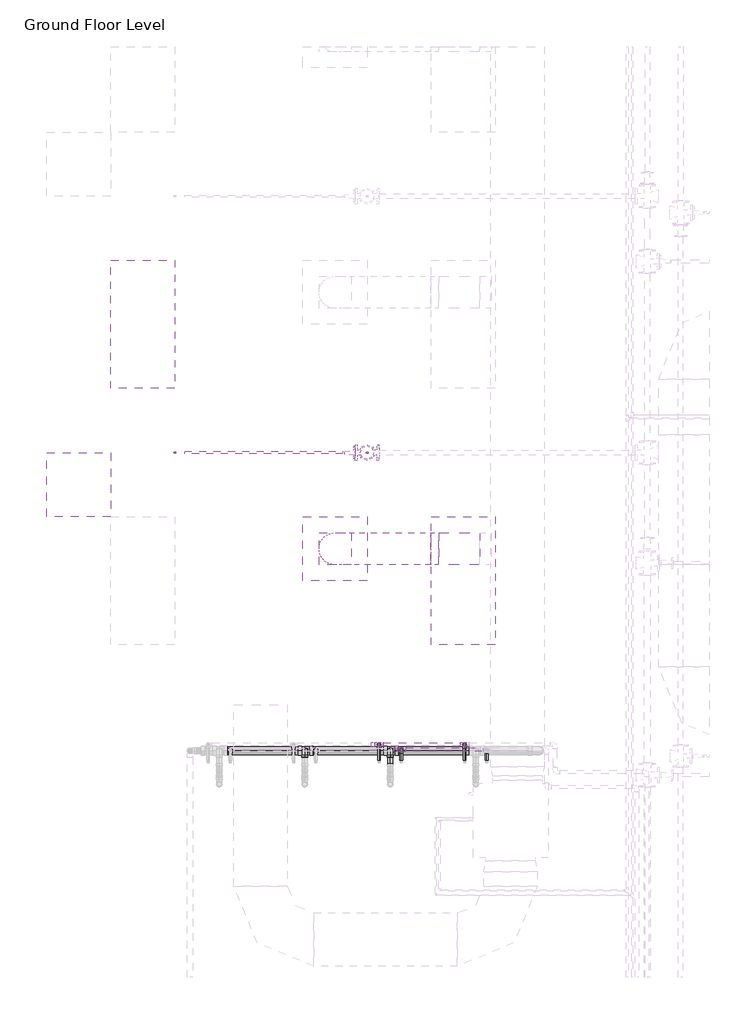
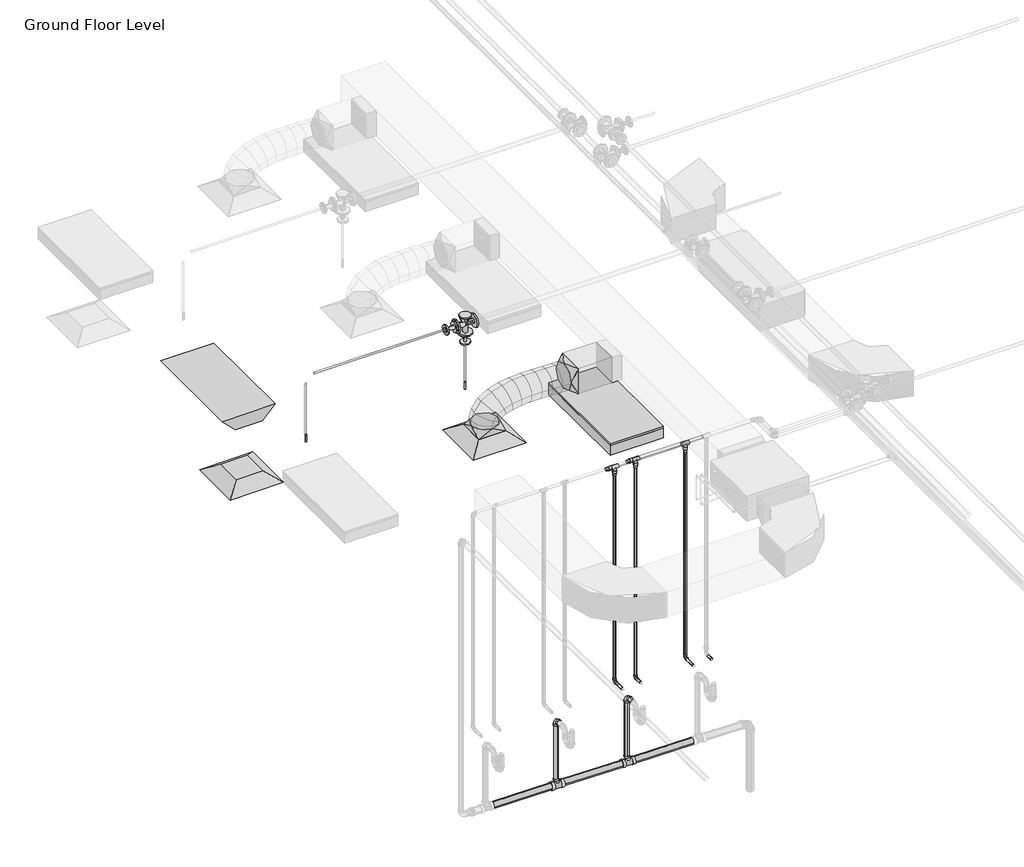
# One storey, part 24 of 74: 18 pipe fittings, 18 pipe segments, 2 air terminals, 2 duct fittings, 2 duct segments, 2 fire suppression terminals, 2 light fixtures.
"""IFC4 building model written with IfcOpenShell, lengths in millimetres."""

from ifc_helpers import new_model, si_unit, point, frame, frame_2d, origin, place, context, project, spatial, polyline, circle_curve, ellipse_curve, trimmed, segment, composite_curve, outline, extrude, transform, mapped, element, save
from ifc_brep_helpers import plane_surface, cylinder_surface, advanced_brep
from components import m_return_diffuser_600_x_600_face_300_x_300_connection_ff221211, m_rectangular_to_round_transition_angle_45_degree_641efff0, m_sprinkler_dry_pendent_hosted_15_mm_dry_pendent_9bda8e11, m_emergency_recessed_lighting_fixture_600x1200_277_5b10b25d, m_troffer_light_parabolic_rectangular1_0600x1200mm_4_lamp_86473d4a, m_bend_pvc_sch_40_dwv_standard_1e7bdcc1, m_bend_pvc_sch_40_dwv_standard_b3f66ba9, m_reducer_flanged_cs_class_150_standard_dc68ad9d, m_tee_reducing_sanitary_pvc_sch_40_dwv_standard_21d2848c, m_tee_round_base_flanged_cs_class_150_standard_ab36f383, standard_b266ab3f, standard_72b35c3b, standard_e954f56a, standard_e5aa6446

model = new_model("IFC4")

# Units and contexts
model_context = context("Model", 3, world=origin())
ifc_project = project(units=[si_unit("LENGTHUNIT", "METRE", prefix="MILLI")], contexts=[model_context])

# Site, building, storey
site = spatial("IfcSite", under=ifc_project)
building = spatial("IfcBuilding", under=site)
storey = spatial("IfcBuildingStorey", under=building, Name="Ground Floor Level", Elevation=900.0)

# Air terminals
placement = place(None, origin())
m_return_diffuser_600_x_600_face_300_x_300_connection_shape = m_return_diffuser_600_x_600_face_300_x_300_connection_ff221211(model_context)
element("IfcAirTerminal", 1, ObjectType="M_Return Diffuser : 600 x 600 Face 300 x 300 Connection", at=placement, inside=storey, context=model_context, shape_type="MappedRepresentation", body=[
    mapped(m_return_diffuser_600_x_600_face_300_x_300_connection_shape, transform((362.7672395, -21364.7846466, 3650.0), x_axis=(1.0, 0.0, 0.0), y_axis=(0.0, 1.0, 0.0), z_axis=(0.0, 0.0, 1.0))),
])
element("IfcAirTerminal", 2, ObjectType="M_Supply Diffuser : 600 x 600 Face 300 x 300 Connection", at=placement, inside=storey, context=model_context, shape_type="MappedRepresentation", body=[
    mapped(m_return_diffuser_600_x_600_face_300_x_300_connection_shape, transform((2762.7672395, -21964.7846466, 3650.0), x_axis=(1.0, 0.0, 0.0), y_axis=(0.0, 1.0, 0.0), z_axis=(0.0, 0.0, 1.0))),
])

# Duct fittings
m_rectangular_to_round_transition_angle_45_degree_shape = m_rectangular_to_round_transition_angle_45_degree_641efff0(model_context)
element("IfcDuctFitting", 3, ObjectType="M_Rectangular to Round Transition - Angle : 45 Degree", at=placement, inside=storey, context=model_context, shape_type="MappedRepresentation", body=[
    mapped(m_rectangular_to_round_transition_angle_45_degree_shape, transform((2762.7672395, -21964.7846466, 3751.6), x_axis=(0.0, 0.0, 1.0), y_axis=(-1.0, 0.0, 0.0), z_axis=(0.0, -1.0, 0.0))),
])
element("IfcDuctFitting", 4, ObjectType="M_Rectangular to Round Transition - Angle : 45 Degree", at=placement, inside=storey, context=model_context, shape_type="MappedRepresentation", body=[
    mapped(m_rectangular_to_round_transition_angle_45_degree_shape, transform((3732.9512129, -21964.7846466, 4057.1519579), x_axis=(-1.0, 0.0, 0.0), y_axis=(0.0, -1.0, 0.0), z_axis=(0.0, 0.0, 1.0))),
])

# Duct segments
element("IfcDuctSegment", 5, ObjectType="Flex - Round", at=placement, inside=storey, context=model_context, shape_type="AdvancedBrep", body=[
    advanced_brep(
    [(2912.7672395, -21964.7846466, 3826.6), (2762.7672395, -22114.7846466, 3826.6), (2612.7672395, -21964.7846466, 3826.6), (2762.7672395, -21814.7846466, 3826.6), (2912.7672395, -21964.7846466, 3832.8904143), (2762.7672395, -22114.7846466, 3856.8494149), (2612.7672395, -21964.7846466, 3880.8084155), (2762.7672395, -21814.7846466, 3856.8494149), (2914.0859082, -21964.7846466, 3836.9129923), (2779.5128239, -22114.7846466, 3907.9315565), (2644.9397396, -21964.7846466, 3978.9501208), (2779.5128239, -21814.7846466, 3907.9315565), (2928.1338147, -21964.7846466, 3855.2244817), (2826.2856906, -22114.7846466, 3968.9001322), (2724.4375665, -21964.7846466, 4082.5757828), (2826.2856906, -21814.7846466, 3968.9001322), (2960.075367, -21964.7846466, 3874.5779986), (2897.8900097, -22114.7846466, 4012.2854816), (2835.7046525, -21964.7846466, 4149.9929645), (2897.8900097, -21814.7846466, 4012.2854816), (3023.3471395, -21964.7846466, 3894.3985509), (2989.1299517, -22114.7846466, 4040.8673589), (2954.9127638, -21964.7846466, 4187.3361668), (2989.1299517, -21814.7846466, 4040.8673589), (3111.2174774, -21964.7846466, 3908.1662907), (3094.8096865, -22114.7846466, 4057.4255186), (3078.4018957, -21964.7846466, 4206.6847465), (3094.8096865, -21814.7846466, 4057.4255186), (3215.0370803, -21964.7846466, 3914.773779), (3209.7333846, -22114.7846466, 4064.7397152), (3204.4296888, -21964.7846466, 4214.7056514), (3209.7333846, -21814.7846466, 4064.7397152), (3327.4369923, -21964.7846466, 3915.576814), (3328.705216, -22114.7846466, 4065.589703), (3329.9734397, -21964.7846466, 4215.6025919), (3328.705216, -21814.7846466, 4065.589703), (3442.2113611, -21964.7846466, 3912.815715), (3446.529351, -22114.7846466, 4062.7552364), (3450.847341, -21964.7846466, 4212.6947579), (3446.529351, -21814.7846466, 4062.7552364), (3554.0566752, -21964.7846466, 3909.0643159), (3558.0099599, -22114.7846466, 4059.0160699), (3561.9632447, -21964.7846466, 4208.9678239), (3558.0099599, -21814.7846466, 4059.0160699), (3657.9512129, -21964.7846466, 3907.1519579), (3657.9512129, -21814.7846466, 4057.1519579), (3657.9512129, -21964.7846466, 4207.1519579), (3657.9512129, -22114.7846466, 4057.1519579), (3653.7148319, -21964.7846466, 3907.1519579), (3655.1538878, -22114.7846466, 4057.1519579), (3656.5929436, -21964.7846466, 4207.1519579), (3655.1538878, -21814.7846466, 4057.1519579)],
    [
        (0, 1, circle_curve(frame((2762.7672395, -21964.7846466, 3826.6), z_axis=(0.0, 0.0, -1.0), x_axis=(1.0, 0.0, 0.0)), 150.0)),
        (1, 2, circle_curve(frame((2762.7672395, -21964.7846466, 3826.6), z_axis=(0.0, 0.0, -1.0), x_axis=(1.0, 0.0, 0.0)), 150.0)),
        (2, 3, circle_curve(frame((2762.7672395, -21964.7846466, 3826.6), z_axis=(0.0, 0.0, -1.0), x_axis=(1.0, 0.0, 0.0)), 150.0)),
        (3, 0, circle_curve(frame((2762.7672395, -21964.7846466, 3826.6), z_axis=(0.0, 0.0, -1.0), x_axis=(1.0, 0.0, 0.0)), 150.0)),
        (0, 4),
        (4, 5, ellipse_curve(frame((2762.7672395, -21964.7846466, 3856.8494149), z_axis=(-0.1577273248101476, 0.0, -0.9874827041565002), x_axis=(0.9874827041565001, 0.0, -0.1577273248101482)), 151.9013947, 150.0)),
        (5, 1),
        (5, 6, ellipse_curve(frame((2762.7672395, -21964.7846466, 3856.8494149), z_axis=(-0.1577273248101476, 0.0, -0.9874827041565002), x_axis=(0.9874827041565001, 0.0, -0.1577273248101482)), 151.9013947, 150.0)),
        (6, 2),
        (6, 7, ellipse_curve(frame((2762.7672395, -21964.7846466, 3856.8494149), z_axis=(-0.1577273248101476, 0.0, -0.9874827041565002), x_axis=(0.9874827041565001, 0.0, -0.1577273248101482)), 151.9013947, 150.0)),
        (7, 3),
        (7, 4, ellipse_curve(frame((2762.7672395, -21964.7846466, 3856.8494149), z_axis=(-0.1577273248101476, 0.0, -0.9874827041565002), x_axis=(0.9874827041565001, 0.0, -0.1577273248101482)), 151.9013947, 150.0)),
        (4, 8),
        (8, 9, ellipse_curve(frame((2779.5128239, -21964.7846466, 3907.9315565), z_axis=(-0.46672716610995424, 0.0, -0.8844013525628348), x_axis=(0.8844013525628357, 0.0, -0.466727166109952)), 152.162911, 150.0)),
        (9, 5),
        (9, 10, ellipse_curve(frame((2779.5128239, -21964.7846466, 3907.9315565), z_axis=(-0.46672716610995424, 0.0, -0.8844013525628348), x_axis=(0.8844013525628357, 0.0, -0.466727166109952)), 152.162911, 150.0)),
        (10, 6),
        (10, 11, ellipse_curve(frame((2779.5128239, -21964.7846466, 3907.9315565), z_axis=(-0.46672716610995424, 0.0, -0.8844013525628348), x_axis=(0.8844013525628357, 0.0, -0.466727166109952)), 152.162911, 150.0)),
        (11, 7),
        (11, 8, ellipse_curve(frame((2779.5128239, -21964.7846466, 3907.9315565), z_axis=(-0.46672716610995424, 0.0, -0.8844013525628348), x_axis=(0.8844013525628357, 0.0, -0.466727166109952)), 152.162911, 150.0)),
        (8, 12),
        (12, 13, ellipse_curve(frame((2826.2856906, -21964.7846466, 3968.9001322), z_axis=(-0.744790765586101, 0.0, -0.6672980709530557), x_axis=(0.6672980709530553, 0.0, -0.7447907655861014)), 152.6276316, 150.0)),
        (13, 9),
        (13, 14, ellipse_curve(frame((2826.2856906, -21964.7846466, 3968.9001322), z_axis=(-0.744790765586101, 0.0, -0.6672980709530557), x_axis=(0.6672980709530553, 0.0, -0.7447907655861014)), 152.6276316, 150.0)),
        (14, 10),
        (14, 15, ellipse_curve(frame((2826.2856906, -21964.7846466, 3968.9001322), z_axis=(-0.744790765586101, 0.0, -0.6672980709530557), x_axis=(0.6672980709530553, 0.0, -0.7447907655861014)), 152.6276316, 150.0)),
        (15, 11),
        (15, 12, ellipse_curve(frame((2826.2856906, -21964.7846466, 3968.9001322), z_axis=(-0.744790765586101, 0.0, -0.6672980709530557), x_axis=(0.6672980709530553, 0.0, -0.7447907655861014)), 152.6276316, 150.0)),
        (12, 16),
        (16, 17, ellipse_curve(frame((2897.8900097, -21964.7846466, 4012.2854816), z_axis=(-0.9113833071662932, 0.0, -0.41155858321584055), x_axis=(0.41155858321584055, 0.0, -0.9113833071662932)), 151.0972187, 150.0)),
        (17, 13),
        (17, 18, ellipse_curve(frame((2897.8900097, -21964.7846466, 4012.2854816), z_axis=(-0.9113833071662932, 0.0, -0.41155858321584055), x_axis=(0.41155858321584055, 0.0, -0.9113833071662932)), 151.0972187, 150.0)),
        (18, 14),
        (18, 19, ellipse_curve(frame((2897.8900097, -21964.7846466, 4012.2854816), z_axis=(-0.9113833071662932, 0.0, -0.41155858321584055), x_axis=(0.41155858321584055, 0.0, -0.9113833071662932)), 151.0972187, 150.0)),
        (19, 15),
        (19, 16, ellipse_curve(frame((2897.8900097, -21964.7846466, 4012.2854816), z_axis=(-0.9113833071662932, 0.0, -0.41155858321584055), x_axis=(0.41155858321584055, 0.0, -0.9113833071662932)), 151.0972187, 150.0)),
        (16, 20),
        (20, 21, ellipse_curve(frame((2989.1299517, -21964.7846466, 4040.8673589), z_axis=(-0.9737806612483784, 0.0, -0.22748895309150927), x_axis=(0.22748895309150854, 0.0, -0.9737806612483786)), 150.4125249, 150.0)),
        (21, 17),
        (21, 22, ellipse_curve(frame((2989.1299517, -21964.7846466, 4040.8673589), z_axis=(-0.9737806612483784, 0.0, -0.22748895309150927), x_axis=(0.22748895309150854, 0.0, -0.9737806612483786)), 150.4125249, 150.0)),
        (22, 18),
        (22, 23, ellipse_curve(frame((2989.1299517, -21964.7846466, 4040.8673589), z_axis=(-0.9737806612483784, 0.0, -0.22748895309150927), x_axis=(0.22748895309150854, 0.0, -0.9737806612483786)), 150.4125249, 150.0)),
        (23, 19),
        (23, 20, ellipse_curve(frame((2989.1299517, -21964.7846466, 4040.8673589), z_axis=(-0.9737806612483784, 0.0, -0.22748895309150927), x_axis=(0.22748895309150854, 0.0, -0.9737806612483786)), 150.4125249, 150.0)),
        (20, 24),
        (24, 25, ellipse_curve(frame((3094.8096865, -21964.7846466, 4057.4255186), z_axis=(-0.9940121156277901, 0.0, -0.109269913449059), x_axis=(0.10926991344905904, 0.0, -0.9940121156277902)), 150.1583588, 150.0)),
        (25, 21),
        (25, 26, ellipse_curve(frame((3094.8096865, -21964.7846466, 4057.4255186), z_axis=(-0.9940121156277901, 0.0, -0.109269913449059), x_axis=(0.10926991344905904, 0.0, -0.9940121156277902)), 150.1583588, 150.0)),
        (26, 22),
        (26, 27, ellipse_curve(frame((3094.8096865, -21964.7846466, 4057.4255186), z_axis=(-0.9940121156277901, 0.0, -0.109269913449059), x_axis=(0.10926991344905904, 0.0, -0.9940121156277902)), 150.1583588, 150.0)),
        (27, 23),
        (27, 24, ellipse_curve(frame((3094.8096865, -21964.7846466, 4057.4255186), z_axis=(-0.9940121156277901, 0.0, -0.109269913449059), x_axis=(0.10926991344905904, 0.0, -0.9940121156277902)), 150.1583588, 150.0)),
        (24, 28),
        (28, 29, ellipse_curve(frame((3209.7333846, -21964.7846466, 4064.7397152), z_axis=(-0.9993752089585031, 0.0, -0.035343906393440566), x_axis=(0.035343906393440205, 0.0, -0.9993752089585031)), 150.0596922, 150.0)),
        (29, 25),
        (29, 30, ellipse_curve(frame((3209.7333846, -21964.7846466, 4064.7397152), z_axis=(-0.9993752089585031, 0.0, -0.035343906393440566), x_axis=(0.035343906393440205, 0.0, -0.9993752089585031)), 150.0596922, 150.0)),
        (30, 26),
        (30, 31, ellipse_curve(frame((3209.7333846, -21964.7846466, 4064.7397152), z_axis=(-0.9993752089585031, 0.0, -0.035343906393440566), x_axis=(0.035343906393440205, 0.0, -0.9993752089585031)), 150.0596922, 150.0)),
        (31, 27),
        (31, 28, ellipse_curve(frame((3209.7333846, -21964.7846466, 4064.7397152), z_axis=(-0.9993752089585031, 0.0, -0.035343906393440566), x_axis=(0.035343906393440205, 0.0, -0.9993752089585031)), 150.0596922, 150.0)),
        (28, 32),
        (32, 33, ellipse_curve(frame((3328.705216, -21964.7846466, 4065.589703), z_axis=(-0.9999642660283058, 0.0, 0.008453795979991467), x_axis=(-0.00845379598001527, 0.0, -0.9999642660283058)), 150.0182497, 150.0)),
        (33, 29),
        (33, 34, ellipse_curve(frame((3328.705216, -21964.7846466, 4065.589703), z_axis=(-0.9999642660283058, 0.0, 0.008453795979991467), x_axis=(-0.00845379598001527, 0.0, -0.9999642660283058)), 150.0182497, 150.0)),
        (34, 30),
        (34, 35, ellipse_curve(frame((3328.705216, -21964.7846466, 4065.589703), z_axis=(-0.9999642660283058, 0.0, 0.008453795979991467), x_axis=(-0.00845379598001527, 0.0, -0.9999642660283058)), 150.0182497, 150.0)),
        (35, 31),
        (35, 32, ellipse_curve(frame((3328.705216, -21964.7846466, 4065.589703), z_axis=(-0.9999642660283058, 0.0, 0.008453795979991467), x_axis=(-0.00845379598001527, 0.0, -0.9999642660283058)), 150.0182497, 150.0)),
        (32, 36),
        (36, 37, ellipse_curve(frame((3446.529351, -21964.7846466, 4062.7552364), z_axis=(-0.9995855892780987, 0.0, 0.028786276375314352), x_axis=(-0.028786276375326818, 0.0, -0.9995855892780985)), 150.0016838, 150.0)),
        (37, 33),
        (37, 38, ellipse_curve(frame((3446.529351, -21964.7846466, 4062.7552364), z_axis=(-0.9995855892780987, 0.0, 0.028786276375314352), x_axis=(-0.028786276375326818, 0.0, -0.9995855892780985)), 150.0016838, 150.0)),
        (38, 34),
        (38, 39, ellipse_curve(frame((3446.529351, -21964.7846466, 4062.7552364), z_axis=(-0.9995855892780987, 0.0, 0.028786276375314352), x_axis=(-0.028786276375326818, 0.0, -0.9995855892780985)), 150.0016838, 150.0)),
        (39, 35),
        (39, 36, ellipse_curve(frame((3446.529351, -21964.7846466, 4062.7552364), z_axis=(-0.9995855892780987, 0.0, 0.028786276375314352), x_axis=(-0.028786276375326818, 0.0, -0.9995855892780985)), 150.0016838, 150.0)),
        (36, 40),
        (40, 41, ellipse_curve(frame((3558.0099599, -21964.7846466, 4059.0160699), z_axis=(-0.999652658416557, 0.0, 0.026354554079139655), x_axis=(0.026354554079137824, 0.0, 0.9996526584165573)), 150.0038566, 150.0)),
        (41, 37),
        (41, 42, ellipse_curve(frame((3558.0099599, -21964.7846466, 4059.0160699), z_axis=(-0.999652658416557, 0.0, 0.026354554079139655), x_axis=(0.026354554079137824, 0.0, 0.9996526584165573)), 150.0038566, 150.0)),
        (42, 38),
        (42, 43, ellipse_curve(frame((3558.0099599, -21964.7846466, 4059.0160699), z_axis=(-0.999652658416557, 0.0, 0.026354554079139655), x_axis=(0.026354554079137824, 0.0, 0.9996526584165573)), 150.0038566, 150.0)),
        (43, 39),
        (43, 40, ellipse_curve(frame((3558.0099599, -21964.7846466, 4059.0160699), z_axis=(-0.999652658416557, 0.0, 0.026354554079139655), x_axis=(0.026354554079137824, 0.0, 0.9996526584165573)), 150.0038566, 150.0)),
        (44, 45, circle_curve(frame((3657.9512129, -21964.7846466, 4057.1519579), z_axis=(1.0, 0.0, 0.0), x_axis=(0.0, 0.0, -1.0)), 150.0)),
        (45, 46, circle_curve(frame((3657.9512129, -21964.7846466, 4057.1519579), z_axis=(1.0, 0.0, 0.0), x_axis=(0.0, 0.0, -1.0)), 150.0)),
        (46, 47, circle_curve(frame((3657.9512129, -21964.7846466, 4057.1519579), z_axis=(1.0, 0.0, 0.0), x_axis=(0.0, 0.0, -1.0)), 150.0)),
        (47, 44, circle_curve(frame((3657.9512129, -21964.7846466, 4057.1519579), z_axis=(1.0, 0.0, 0.0), x_axis=(0.0, 0.0, -1.0)), 150.0)),
        (40, 48),
        (48, 49, ellipse_curve(frame((3655.1538878, -21964.7846466, 4057.1519579), z_axis=(-0.9999539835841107, 0.0, 0.009593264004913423), x_axis=(0.009593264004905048, 0.0, 0.9999539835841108)), 150.0069028, 150.0)),
        (49, 41),
        (49, 50, ellipse_curve(frame((3655.1538878, -21964.7846466, 4057.1519579), z_axis=(-0.9999539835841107, 0.0, 0.009593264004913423), x_axis=(0.009593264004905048, 0.0, 0.9999539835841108)), 150.0069028, 150.0)),
        (50, 42),
        (50, 51, ellipse_curve(frame((3655.1538878, -21964.7846466, 4057.1519579), z_axis=(-0.9999539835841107, 0.0, 0.009593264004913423), x_axis=(0.009593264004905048, 0.0, 0.9999539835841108)), 150.0069028, 150.0)),
        (51, 43),
        (51, 48, ellipse_curve(frame((3655.1538878, -21964.7846466, 4057.1519579), z_axis=(-0.9999539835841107, 0.0, 0.009593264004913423), x_axis=(0.009593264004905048, 0.0, 0.9999539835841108)), 150.0069028, 150.0)),
        (48, 44),
        (47, 49),
        (46, 50),
        (45, 51),
    ],
    [
        plane_surface(frame((2762.7672395, -22114.7846466, 3826.6), z_axis=(0.0, 0.0, -1.0), x_axis=(1.0, 0.0, 0.0))),
        cylinder_surface(frame((2762.7672395, -21964.7846466, 3826.6), z_axis=(0.0, 0.0, -1.0), x_axis=(1.0, 0.0, 0.0)), 150.0),
        cylinder_surface(frame((2762.7672395, -21964.7846466, 3856.8494149), z_axis=(-0.3115060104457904, 0.0, -0.9502441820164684), x_axis=(0.9502441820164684, 0.0, -0.3115060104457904)), 150.0),
        cylinder_surface(frame((2779.5128239, -21964.7846466, 3907.9315565), z_axis=(-0.6086797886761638, 0.0, -0.7934159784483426), x_axis=(0.7934159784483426, 0.0, -0.6086797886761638)), 150.0),
        cylinder_surface(frame((2826.2856906, -21964.7846466, 3968.9001322), z_axis=(-0.8552571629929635, 0.0, -0.5182038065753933), x_axis=(0.5182038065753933, 0.0, -0.8552571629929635)), 150.0),
        cylinder_surface(frame((2897.8900097, -21964.7846466, 4012.2854816), z_axis=(-0.9542731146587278, 0.0, -0.29893615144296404), x_axis=(0.29893615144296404, 0.0, -0.9542731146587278)), 150.0),
        cylinder_surface(frame((2989.1299517, -21964.7846466, 4040.8673589), z_axis=(-0.9879467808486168, 0.0, -0.15479392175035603), x_axis=(0.15479392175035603, 0.0, -0.9879467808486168)), 150.0),
        cylinder_surface(frame((3094.8096865, -21964.7846466, 4057.4255186), z_axis=(-0.997980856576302, 0.0, -0.06351543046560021), x_axis=(0.06351543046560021, 0.0, -0.997980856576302)), 150.0),
        cylinder_surface(frame((3209.7333846, -21964.7846466, 4064.7397152), z_axis=(-0.9999744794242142, 0.0, -0.007144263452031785), x_axis=(0.007144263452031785, 0.0, -0.9999744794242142)), 150.0),
        cylinder_surface(frame((3328.705216, -21964.7846466, 4065.589703), z_axis=(-0.9997107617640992, 0.0, 0.024049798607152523), x_axis=(-0.024049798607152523, 0.0, -0.9997107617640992)), 150.0),
        cylinder_surface(frame((3446.529351, -21964.7846466, 4062.7552364), z_axis=(-0.9994379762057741, 0.0, 0.03352210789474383), x_axis=(-0.03352210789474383, 0.0, -0.9994379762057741)), 150.0),
        plane_surface(frame((3657.9512129, -21964.7846466, 3907.1519579), z_axis=(1.0, 0.0, 0.0), x_axis=(0.0, 1.0, 0.0))),
        cylinder_surface(frame((3558.0099599, -21964.7846466, 4059.0160699), z_axis=(-0.9998159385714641, 0.0, 0.01918564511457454), x_axis=(-0.01918564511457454, 0.0, -0.9998159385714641)), 150.0),
        cylinder_surface(frame((3655.1538878, -21964.7846466, 4057.1519579), z_axis=(-1.0, 0.0, 0.0), x_axis=(0.0, 0.0, -1.0)), 150.0),
    ],
    [
        (0, [[1, 2, 3, 4]]),
        (1, [[-1, 5, 6, 7]]),
        (1, [[-2, -7, 8, 9]]),
        (1, [[-3, -9, 10, 11]]),
        (1, [[-4, -11, 12, -5]]),
        (2, [[-6, 13, 14, 15]]),
        (2, [[-8, -15, 16, 17]]),
        (2, [[-10, -17, 18, 19]]),
        (2, [[-12, -19, 20, -13]]),
        (3, [[-14, 21, 22, 23]]),
        (3, [[-16, -23, 24, 25]]),
        (3, [[-18, -25, 26, 27]]),
        (3, [[-20, -27, 28, -21]]),
        (4, [[-22, 29, 30, 31]]),
        (4, [[-24, -31, 32, 33]]),
        (4, [[-26, -33, 34, 35]]),
        (4, [[-28, -35, 36, -29]]),
        (5, [[-30, 37, 38, 39]]),
        (5, [[-32, -39, 40, 41]]),
        (5, [[-34, -41, 42, 43]]),
        (5, [[-36, -43, 44, -37]]),
        (6, [[-38, 45, 46, 47]]),
        (6, [[-40, -47, 48, 49]]),
        (6, [[-42, -49, 50, 51]]),
        (6, [[-44, -51, 52, -45]]),
        (7, [[-46, 53, 54, 55]]),
        (7, [[-48, -55, 56, 57]]),
        (7, [[-50, -57, 58, 59]]),
        (7, [[-52, -59, 60, -53]]),
        (8, [[-54, 61, 62, 63]]),
        (8, [[-56, -63, 64, 65]]),
        (8, [[-58, -65, 66, 67]]),
        (8, [[-60, -67, 68, -61]]),
        (9, [[-62, 69, 70, 71]]),
        (9, [[-64, -71, 72, 73]]),
        (9, [[-66, -73, 74, 75]]),
        (9, [[-68, -75, 76, -69]]),
        (10, [[-70, 77, 78, 79]]),
        (10, [[-72, -79, 80, 81]]),
        (10, [[-74, -81, 82, 83]]),
        (10, [[-76, -83, 84, -77]]),
        (11, [[85, 86, 87, 88]]),
        (12, [[-78, 89, 90, 91]]),
        (12, [[-80, -91, 92, 93]]),
        (12, [[-82, -93, 94, 95]]),
        (12, [[-84, -95, 96, -89]]),
        (13, [[-90, 97, -88, 98]]),
        (13, [[-92, -98, -87, 99]]),
        (13, [[-94, -99, -86, 100]]),
        (13, [[-96, -100, -85, -97]]),
    ],
),
])
element("IfcDuctSegment", 6, ObjectType="Radius Elbows / Taps", at=placement, inside=storey, context=model_context, shape_type="SweptSolid", body=[
    extrude(outline(polyline([(4117.5581832, -21814.7846466), (4117.5581832, -22114.7846466), (3732.9512129, -22114.7846466), (3732.9512129, -21814.7846466), (4117.5581832, -21814.7846466)])), frame((0.0, 0.0, 3907.1519579), z_axis=(0.0, 0.0, 1.0), x_axis=(1.0, 0.0, 0.0)), (0.0, 0.0, 1.0), 300.0),
])

# Fire suppression terminals
m_sprinkler_dry_pendent_hosted_15_mm_dry_pendent_shape = m_sprinkler_dry_pendent_hosted_15_mm_dry_pendent_9bda8e11(model_context)
element("IfcFireSuppressionTerminal", 7, ObjectType="M_Sprinkler - Dry - Pendent - Hosted : 15 mm Dry Pendent", at=placement, inside=storey, context=model_context, shape_type="MappedRepresentation", body=[
    mapped(m_sprinkler_dry_pendent_hosted_15_mm_dry_pendent_shape, transform((1262.7672395, -21064.7846466, 3650.0), x_axis=(1.0, 0.0, 0.0), y_axis=(0.0, -1.0, 0.0), z_axis=(0.0, 0.0, -1.0))),
])
element("IfcFireSuppressionTerminal", 8, ObjectType="M_Sprinkler - Dry - Pendent - Hosted : 15 mm Dry Pendent", at=placement, inside=storey, context=model_context, shape_type="MappedRepresentation", body=[
    mapped(m_sprinkler_dry_pendent_hosted_15_mm_dry_pendent_shape, transform((3062.7672395, -21064.7846466, 3650.0), x_axis=(1.0, 0.0, 0.0), y_axis=(0.0, -1.0, 0.0), z_axis=(0.0, 0.0, -1.0))),
])

# Light fixtures
m_emergency_recessed_lighting_fixture_600x1200_277_shape = m_emergency_recessed_lighting_fixture_600x1200_277_5b10b25d(model_context)
element("IfcLightFixture", 9, ObjectType="M_Emergency Recessed Lighting Fixture : 600x1200 - 277", at=placement, inside=storey, context=model_context, shape_type="MappedRepresentation", body=[
    mapped(m_emergency_recessed_lighting_fixture_600x1200_277_shape, transform((662.7672395, -20464.7846466, 3650.0), x_axis=(0.0, 1.0, 0.0), y_axis=(-1.0, 0.0, 0.0), z_axis=(0.0, 0.0, 1.0))),
])
m_troffer_light_parabolic_rectangular1_0600x1200mm_4_lamp_shape = m_troffer_light_parabolic_rectangular1_0600x1200mm_4_lamp_86473d4a(model_context)
element("IfcLightFixture", 10, ObjectType="M_Troffer Light - Parabolic Rectangular1 : 0600x1200mm(4 Lamp) - 277V 2", at=placement, inside=storey, context=model_context, shape_type="MappedRepresentation", body=[
    mapped(m_troffer_light_parabolic_rectangular1_0600x1200mm_4_lamp_shape, transform((3903.3013074, -22246.081145, 3650.0), x_axis=(0.0, 1.0, 0.0), y_axis=(-1.0, 0.0, 0.0), z_axis=(0.0, 0.0, 1.0))),
])

# Pipe fittings
m_bend_pvc_sch_40_dwv_standard_shape = m_bend_pvc_sch_40_dwv_standard_1e7bdcc1(model_context)
element("IfcPipeFitting", 11, ObjectType="M_Bend - PVC - Sch 40 - DWV : Standard", at=placement, inside=storey, context=model_context, shape_type="MappedRepresentation", body=[
    mapped(m_bend_pvc_sch_40_dwv_standard_shape, transform((2478.7498, -23854.2948449, 1508.2594199), x_axis=(0.0, 0.9999500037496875, -0.00999950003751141), y_axis=(0.0, -0.00999950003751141, -0.9999500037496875), z_axis=(-1.0, 0.0, 0.0))),
])
m_bend_pvc_sch_40_dwv_standard_2_shape = m_bend_pvc_sch_40_dwv_standard_b3f66ba9(model_context)
element("IfcPipeFitting", 12, ObjectType="M_Bend - PVC - Sch 40 - DWV : Standard", at=placement, inside=storey, context=model_context, shape_type="MappedRepresentation", body=[
    mapped(m_bend_pvc_sch_40_dwv_standard_2_shape, transform((3278.7498, -23854.294392, 1508.3087469), x_axis=(0.0, 0.9999578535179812, -0.009181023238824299), y_axis=(0.0, -0.009181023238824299, -0.9999578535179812), z_axis=(-1.0, 0.0, 0.0))),
])
m_reducer_flanged_cs_class_150_standard_shape = m_reducer_flanged_cs_class_150_standard_dc68ad9d(model_context)
element("IfcPipeFitting", 13, ObjectType="M_Reducer - Flanged - CS - Class 150 : Standard", at=placement, inside=storey, context=model_context, shape_type="MappedRepresentation", body=[
    mapped(m_reducer_flanged_cs_class_150_standard_shape, transform((2950.5086457, -21064.7846466, 4347.5), x_axis=(-1.0, 0.0, 0.0), y_axis=(0.0, 0.0, 1.0), z_axis=(0.0, 1.0, 0.0))),
])
element("IfcPipeFitting", 14, ObjectType="M_Reducer - Flanged - CS - Class 150 : Standard", at=placement, inside=storey, context=model_context, shape_type="MappedRepresentation", body=[
    mapped(m_reducer_flanged_cs_class_150_standard_shape, transform((3062.7672395, -21064.7846466, 4235.2414062), x_axis=(0.0, 0.0, -1.0), y_axis=(-1.0, 0.0, 0.0), z_axis=(0.0, 1.0, 0.0))),
])
m_tee_reducing_sanitary_pvc_sch_40_dwv_standard_shape = m_tee_reducing_sanitary_pvc_sch_40_dwv_standard_21d2848c(model_context)
element("IfcPipeFitting", 15, ObjectType="M_Tee Reducing Sanitary - PVC - Sch 40 - DWV : Standard", at=placement, inside=storey, context=model_context, shape_type="MappedRepresentation", body=[
    mapped(m_tee_reducing_sanitary_pvc_sch_40_dwv_standard_shape, transform((2478.7498, -23854.2948449, 729.0632162), x_axis=(-0.9999500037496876, 0.0, 0.009999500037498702), y_axis=(-0.009999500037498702, 0.0, -0.9999500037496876), z_axis=(0.0, -1.0, 0.0))),
])
element("IfcPipeFitting", 16, ObjectType="M_Tee Reducing Sanitary - PVC - Sch 40 - DWV : Standard", at=placement, inside=storey, context=model_context, shape_type="MappedRepresentation", body=[
    mapped(m_tee_reducing_sanitary_pvc_sch_40_dwv_standard_shape, transform((3278.7498, -23854.294392, 721.0632162), x_axis=(-0.9999500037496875, 0.0, 0.009999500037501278), y_axis=(-0.009999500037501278, 0.0, -0.9999500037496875), z_axis=(0.0, -1.0, 0.0))),
])
m_tee_round_base_flanged_cs_class_150_standard_shape = m_tee_round_base_flanged_cs_class_150_standard_ab36f383(model_context)
element("IfcPipeFitting", 17, ObjectType="M_Tee Round Base - Flanged - CS - Class 150 : Standard", at=placement, inside=storey, context=model_context, shape_type="MappedRepresentation", body=[
    mapped(m_tee_round_base_flanged_cs_class_150_standard_shape, transform((3062.7672395, -21064.7846466, 4347.5), x_axis=(-1.0, 0.0, 0.0), y_axis=(0.0, 0.0, 1.0), z_axis=(0.0, 1.0, 0.0))),
])
standard_shape = standard_b266ab3f(model_context)
element("IfcPipeFitting", 18, ObjectType="M_Elbow - CPVC - Sch 40 : Standard", at=placement, inside=storey, context=model_context, shape_type="MappedRepresentation", body=[
    mapped(standard_shape, transform((3383.0647206, -23844.7846466, 1690.0), x_axis=(0.0, 0.0, -1.0), y_axis=(0.0, -1.0, 0.0), z_axis=(-1.0, 0.0, 0.0))),
])
element("IfcPipeFitting", 19, ObjectType="M_Elbow - CPVC - Sch 40 : Standard", at=placement, inside=storey, context=model_context, shape_type="MappedRepresentation", body=[
    mapped(standard_shape, transform((3174.4348794, -23794.921633, 1690.0), x_axis=(0.0, 1.0, 0.0), y_axis=(0.0, 0.0, 1.0), z_axis=(1.0, 0.0, 0.0))),
])
element("IfcPipeFitting", 20, ObjectType="M_Elbow - CPVC - Sch 40 : Standard", at=placement, inside=storey, context=model_context, shape_type="MappedRepresentation", body=[
    mapped(standard_shape, transform((3974.4348794, -23794.921633, 1690.0), x_axis=(0.0, 1.0, 0.0), y_axis=(0.0, 0.0, 1.0), z_axis=(1.0, 0.0, 0.0))),
])
standard_2_shape = standard_72b35c3b(model_context)
element("IfcPipeFitting", 21, ObjectType="M_Tee - CPVC - Sch 40 : Standard", at=placement, inside=storey, context=model_context, shape_type="MappedRepresentation", body=[
    mapped(standard_2_shape, transform((3383.0647206, -23844.7846466, 4300.0), x_axis=(1.0, 0.0, 0.0), y_axis=(0.0, 0.0, 1.0), z_axis=(0.0, -1.0, 0.0))),
])
element("IfcPipeFitting", 22, ObjectType="M_Tee - CPVC - Sch 40 : Standard", at=placement, inside=storey, context=model_context, shape_type="MappedRepresentation", body=[
    mapped(standard_2_shape, transform((3174.4348794, -23794.921633, 4250.0), x_axis=(-1.0, 0.0, 0.0), y_axis=(0.0, 0.0, 1.0), z_axis=(0.0, 1.0, 0.0))),
])
element("IfcPipeFitting", 23, ObjectType="M_Tee - CPVC - Sch 40 : Standard", at=placement, inside=storey, context=model_context, shape_type="MappedRepresentation", body=[
    mapped(standard_2_shape, transform((3974.4348794, -23794.921633, 4250.0), x_axis=(-1.0, 0.0, 0.0), y_axis=(0.0, 0.0, 1.0), z_axis=(0.0, 1.0, 0.0))),
])
standard_3_shape = standard_e954f56a(model_context)
element("IfcPipeFitting", 24, ObjectType="M_Coupling Reducing - CPVC - Sch 40 : Standard", at=placement, inside=storey, context=model_context, shape_type="MappedRepresentation", body=[
    mapped(standard_3_shape, transform((3343.3645206, -23844.7846466, 4300.0), x_axis=(-1.0, 0.0, 0.0), y_axis=(0.0, -1.0, 0.0), z_axis=(0.0, 0.0, 1.0))),
])
element("IfcPipeFitting", 25, ObjectType="M_Coupling Reducing - CPVC - Sch 40 : Standard", at=placement, inside=storey, context=model_context, shape_type="MappedRepresentation", body=[
    mapped(standard_3_shape, transform((3383.0647206, -23844.7846466, 4260.2998), x_axis=(0.0, 0.0, -1.0), y_axis=(1.0, 0.0, 0.0), z_axis=(0.0, -1.0, 0.0))),
])
element("IfcPipeFitting", 26, ObjectType="M_Coupling Reducing - CPVC - Sch 40 : Standard", at=placement, inside=storey, context=model_context, shape_type="MappedRepresentation", body=[
    mapped(standard_3_shape, transform((3174.4348794, -23794.921633, 4210.2998), x_axis=(0.0, 0.0, -1.0), y_axis=(-1.0, 0.0, 0.0), z_axis=(0.0, 1.0, 0.0))),
])
element("IfcPipeFitting", 27, ObjectType="M_Coupling Reducing - CPVC - Sch 40 : Standard", at=placement, inside=storey, context=model_context, shape_type="MappedRepresentation", body=[
    mapped(standard_3_shape, transform((3974.4348794, -23794.921633, 4210.2998), x_axis=(0.0, 0.0, -1.0), y_axis=(-1.0, 0.0, 0.0), z_axis=(0.0, 1.0, 0.0))),
])
standard_4_shape = standard_e5aa6446(model_context)
element("IfcPipeFitting", 28, ObjectType="M_Coupling Reducing - CPVC - Sch 40 : Standard", at=placement, inside=storey, context=model_context, shape_type="MappedRepresentation", body=[
    mapped(standard_4_shape, transform((3134.7346794, -23794.921633, 4250.0), x_axis=(-1.0, 0.0, 0.0), y_axis=(0.0, -1.0, 0.0), z_axis=(0.0, 0.0, 1.0))),
])

# Pipe segments
element("IfcPipeSegment", 29, ObjectType="CPVC", at=placement, inside=storey, context=model_context, shape_type="SweptSolid", body=[
    extrude(outline(composite_curve([segment(trimmed(circle_curve(frame_2d((1690.0, 4183.0647206)), 13.335), [point((1690.0, 4196.3997206))], [point((1703.335, 4183.0647206))], False, "CARTESIAN"), True, "CONTINUOUS"), segment(trimmed(circle_curve(frame_2d((1690.0, 4183.0647206)), 13.335), [point((1703.335, 4183.0647206))], [point((1690.0, 4169.7297206))], False, "CARTESIAN"), True, "CONTINUOUS"), segment(trimmed(circle_curve(frame_2d((1690.0, 4183.0647206)), 13.335), [point((1690.0, 4169.7297206))], [point((1676.665, 4183.0647206))], False, "CARTESIAN"), True, "CONTINUOUS"), segment(trimmed(circle_curve(frame_2d((1690.0, 4183.0647206)), 13.335), [point((1676.665, 4183.0647206))], [point((1690.0, 4196.3997206))], False, "CARTESIAN"), True, "CONTINUOUS")], self_intersect=False)), frame((0.0, -23944.7846466, 0.0), z_axis=(0.0, 1.0, 0.0), x_axis=(0.0, 0.0, 1.0)), (0.0, 0.0, 1.0), 64.67495),
])
element("IfcPipeSegment", 30, ObjectType="CPVC", at=placement, inside=storey, context=model_context, shape_type="SweptSolid", body=[
    extrude(outline(composite_curve([segment(trimmed(circle_curve(frame_2d((1690.0, 3383.0647206)), 13.335), [point((1690.0, 3396.3997206))], [point((1703.335, 3383.0647206))], False, "CARTESIAN"), True, "CONTINUOUS"), segment(trimmed(circle_curve(frame_2d((1690.0, 3383.0647206)), 13.335), [point((1703.335, 3383.0647206))], [point((1690.0, 3369.7297206))], False, "CARTESIAN"), True, "CONTINUOUS"), segment(trimmed(circle_curve(frame_2d((1690.0, 3383.0647206)), 13.335), [point((1690.0, 3369.7297206))], [point((1676.665, 3383.0647206))], False, "CARTESIAN"), True, "CONTINUOUS"), segment(trimmed(circle_curve(frame_2d((1690.0, 3383.0647206)), 13.335), [point((1676.665, 3383.0647206))], [point((1690.0, 3396.3997206))], False, "CARTESIAN"), True, "CONTINUOUS")], self_intersect=False)), frame((0.0, -23944.7846466, 0.0), z_axis=(0.0, 1.0, 0.0), x_axis=(0.0, 0.0, 1.0)), (0.0, 0.0, 1.0), 64.67495),
])
element("IfcPipeSegment", 31, ObjectType="CPVC", at=placement, inside=storey, context=model_context, shape_type="SweptSolid", body=[
    extrude(outline(composite_curve([segment(trimmed(circle_curve(frame_2d((3383.0647206, -23844.7846466)), 13.335), [point((3396.3997206, -23844.7846466))], [point((3383.0647206, -23858.1196466))], False, "CARTESIAN"), True, "CONTINUOUS"), segment(trimmed(circle_curve(frame_2d((3383.0647206, -23844.7846466)), 13.335), [point((3383.0647206, -23858.1196466))], [point((3369.7297206, -23844.7846466))], False, "CARTESIAN"), True, "CONTINUOUS"), segment(trimmed(circle_curve(frame_2d((3383.0647206, -23844.7846466)), 13.335), [point((3369.7297206, -23844.7846466))], [point((3383.0647206, -23831.4496466))], False, "CARTESIAN"), True, "CONTINUOUS"), segment(trimmed(circle_curve(frame_2d((3383.0647206, -23844.7846466)), 13.335), [point((3383.0647206, -23831.4496466))], [point((3396.3997206, -23844.7846466))], False, "CARTESIAN"), True, "CONTINUOUS")], self_intersect=False)), frame((0.0, 0.0, 1725.32505), z_axis=(0.0, 0.0, 1.0), x_axis=(1.0, 0.0, 0.0)), (0.0, 0.0, 1.0), 2477.82475),
])
element("IfcPipeSegment", 32, ObjectType="CPVC", at=placement, inside=storey, context=model_context, shape_type="SweptSolid", body=[
    extrude(outline(composite_curve([segment(trimmed(circle_curve(frame_2d((-23844.7846466, 4300.0)), 16.7005), [point((-23828.0841466, 4300.0))], [point((-23844.7846466, 4283.2995))], False, "CARTESIAN"), True, "CONTINUOUS"), segment(trimmed(circle_curve(frame_2d((-23844.7846466, 4300.0)), 16.7005), [point((-23844.7846466, 4283.2995))], [point((-23861.4851466, 4300.0))], False, "CARTESIAN"), True, "CONTINUOUS"), segment(trimmed(circle_curve(frame_2d((-23844.7846466, 4300.0)), 16.7005), [point((-23861.4851466, 4300.0))], [point((-23844.7846466, 4316.7005))], False, "CARTESIAN"), True, "CONTINUOUS"), segment(trimmed(circle_curve(frame_2d((-23844.7846466, 4300.0)), 16.7005), [point((-23844.7846466, 4316.7005))], [point((-23828.0841466, 4300.0))], False, "CARTESIAN"), True, "CONTINUOUS")], self_intersect=False)), frame((3422.7649206, 0.0, 0.0), z_axis=(1.0, 0.0, 0.0), x_axis=(0.0, 1.0, 0.0)), (0.0, 0.0, 1.0), 720.5996),
])
element("IfcPipeSegment", 33, ObjectType="CPVC", at=placement, inside=storey, context=model_context, shape_type="SweptSolid", body=[
    extrude(outline(composite_curve([segment(trimmed(circle_curve(frame_2d((1690.0, 3174.4348794)), 13.335), [point((1690.0, 3187.7698794))], [point((1703.335, 3174.4348794))], False, "CARTESIAN"), True, "CONTINUOUS"), segment(trimmed(circle_curve(frame_2d((1690.0, 3174.4348794)), 13.335), [point((1703.335, 3174.4348794))], [point((1690.0, 3161.0998794))], False, "CARTESIAN"), True, "CONTINUOUS"), segment(trimmed(circle_curve(frame_2d((1690.0, 3174.4348794)), 13.335), [point((1690.0, 3161.0998794))], [point((1676.665, 3174.4348794))], False, "CARTESIAN"), True, "CONTINUOUS"), segment(trimmed(circle_curve(frame_2d((1690.0, 3174.4348794)), 13.335), [point((1676.665, 3174.4348794))], [point((1690.0, 3187.7698794))], False, "CARTESIAN"), True, "CONTINUOUS")], self_intersect=False)), frame((0.0, -23944.7846466, 0.0), z_axis=(0.0, 1.0, 0.0), x_axis=(0.0, 0.0, 1.0)), (0.0, 0.0, 1.0), 114.5379636),
])
element("IfcPipeSegment", 34, ObjectType="CPVC", at=placement, inside=storey, context=model_context, shape_type="SweptSolid", body=[
    extrude(outline(composite_curve([segment(trimmed(circle_curve(frame_2d((3174.4348794, -23794.921633)), 13.335), [point((3161.0998794, -23794.921633))], [point((3174.4348794, -23781.586633))], False, "CARTESIAN"), True, "CONTINUOUS"), segment(trimmed(circle_curve(frame_2d((3174.4348794, -23794.921633)), 13.335), [point((3174.4348794, -23781.586633))], [point((3187.7698794, -23794.921633))], False, "CARTESIAN"), True, "CONTINUOUS"), segment(trimmed(circle_curve(frame_2d((3174.4348794, -23794.921633)), 13.335), [point((3187.7698794, -23794.921633))], [point((3174.4348794, -23808.256633))], False, "CARTESIAN"), True, "CONTINUOUS"), segment(trimmed(circle_curve(frame_2d((3174.4348794, -23794.921633)), 13.335), [point((3174.4348794, -23808.256633))], [point((3161.0998794, -23794.921633))], False, "CARTESIAN"), True, "CONTINUOUS")], self_intersect=False)), frame((0.0, 0.0, 1725.32505), z_axis=(0.0, 0.0, 1.0), x_axis=(1.0, 0.0, 0.0)), (0.0, 0.0, 1.0), 2427.82475),
])
element("IfcPipeSegment", 35, ObjectType="CPVC", at=placement, inside=storey, context=model_context, shape_type="SweptSolid", body=[
    extrude(outline(composite_curve([segment(trimmed(circle_curve(frame_2d((1690.0, 3974.4348794)), 13.335), [point((1690.0, 3987.7698794))], [point((1703.335, 3974.4348794))], False, "CARTESIAN"), True, "CONTINUOUS"), segment(trimmed(circle_curve(frame_2d((1690.0, 3974.4348794)), 13.335), [point((1703.335, 3974.4348794))], [point((1690.0, 3961.0998794))], False, "CARTESIAN"), True, "CONTINUOUS"), segment(trimmed(circle_curve(frame_2d((1690.0, 3974.4348794)), 13.335), [point((1690.0, 3961.0998794))], [point((1676.665, 3974.4348794))], False, "CARTESIAN"), True, "CONTINUOUS"), segment(trimmed(circle_curve(frame_2d((1690.0, 3974.4348794)), 13.335), [point((1676.665, 3974.4348794))], [point((1690.0, 3987.7698794))], False, "CARTESIAN"), True, "CONTINUOUS")], self_intersect=False)), frame((0.0, -23944.7846466, 0.0), z_axis=(0.0, 1.0, 0.0), x_axis=(0.0, 0.0, 1.0)), (0.0, 0.0, 1.0), 114.5379636),
])
element("IfcPipeSegment", 36, ObjectType="CPVC", at=placement, inside=storey, context=model_context, shape_type="SweptSolid", body=[
    extrude(outline(composite_curve([segment(trimmed(circle_curve(frame_2d((3974.4348794, -23794.921633)), 13.335), [point((3961.0998794, -23794.921633))], [point((3974.4348794, -23781.586633))], False, "CARTESIAN"), True, "CONTINUOUS"), segment(trimmed(circle_curve(frame_2d((3974.4348794, -23794.921633)), 13.335), [point((3974.4348794, -23781.586633))], [point((3987.7698794, -23794.921633))], False, "CARTESIAN"), True, "CONTINUOUS"), segment(trimmed(circle_curve(frame_2d((3974.4348794, -23794.921633)), 13.335), [point((3987.7698794, -23794.921633))], [point((3974.4348794, -23808.256633))], False, "CARTESIAN"), True, "CONTINUOUS"), segment(trimmed(circle_curve(frame_2d((3974.4348794, -23794.921633)), 13.335), [point((3974.4348794, -23808.256633))], [point((3961.0998794, -23794.921633))], False, "CARTESIAN"), True, "CONTINUOUS")], self_intersect=False)), frame((0.0, 0.0, 1725.32505), z_axis=(0.0, 0.0, 1.0), x_axis=(1.0, 0.0, 0.0)), (0.0, 0.0, 1.0), 2427.82475),
])
element("IfcPipeSegment", 37, ObjectType="CPVC", at=placement, inside=storey, context=model_context, shape_type="SweptSolid", body=[
    extrude(outline(composite_curve([segment(trimmed(circle_curve(frame_2d((-23794.921633, 4250.0)), 16.7005), [point((-23811.622133, 4250.0))], [point((-23794.921633, 4266.7005))], False, "CARTESIAN"), True, "CONTINUOUS"), segment(trimmed(circle_curve(frame_2d((-23794.921633, 4250.0)), 16.7005), [point((-23794.921633, 4266.7005))], [point((-23778.221133, 4250.0))], False, "CARTESIAN"), True, "CONTINUOUS"), segment(trimmed(circle_curve(frame_2d((-23794.921633, 4250.0)), 16.7005), [point((-23778.221133, 4250.0))], [point((-23794.921633, 4233.2995))], False, "CARTESIAN"), True, "CONTINUOUS"), segment(trimmed(circle_curve(frame_2d((-23794.921633, 4250.0)), 16.7005), [point((-23794.921633, 4233.2995))], [point((-23811.622133, 4250.0))], False, "CARTESIAN"), True, "CONTINUOUS")], self_intersect=False)), frame((3214.1350794, 0.0, 0.0), z_axis=(1.0, 0.0, 0.0), x_axis=(0.0, 1.0, 0.0)), (0.0, 0.0, 1.0), 720.5996),
])
element("IfcPipeSegment", 38, ObjectType="PVC - DWV", at=placement, inside=storey, context=model_context, shape_type="SweptSolid", body=[
    extrude(outline(composite_curve([segment(trimmed(circle_curve(frame_2d((2478.7498, -23854.2948449)), 24.13), [point((2454.6198, -23854.2948449))], [point((2478.7498, -23830.1648449))], False, "CARTESIAN"), True, "CONTINUOUS"), segment(trimmed(circle_curve(frame_2d((2478.7498, -23854.2948449)), 24.13), [point((2478.7498, -23830.1648449))], [point((2502.8798, -23854.2948449))], False, "CARTESIAN"), True, "CONTINUOUS"), segment(trimmed(circle_curve(frame_2d((2478.7498, -23854.2948449)), 24.13), [point((2502.8798, -23854.2948449))], [point((2478.7498, -23878.4248449))], False, "CARTESIAN"), True, "CONTINUOUS"), segment(trimmed(circle_curve(frame_2d((2478.7498, -23854.2948449)), 24.13), [point((2478.7498, -23878.4248449))], [point((2454.6198, -23854.2948449))], False, "CARTESIAN"), True, "CONTINUOUS")], self_intersect=False)), frame((0.0, 0.0, 809.9106725), z_axis=(0.0, 0.0, 1.0), x_axis=(1.0, 0.0, 0.0)), (0.0, 0.0, 1.0), 636.4489474),
])
element("IfcPipeSegment", 39, ObjectType="PVC - DWV", at=placement, inside=storey, context=model_context, shape_type="SweptSolid", body=[
    extrude(outline(composite_curve([segment(trimmed(circle_curve(frame_2d((0.0, -24.13)), 24.13), [point((24.13, -24.13))], [point((0.0, -48.26))], False, "CARTESIAN"), True, "CONTINUOUS"), segment(trimmed(circle_curve(frame_2d((0.0, -24.13)), 24.13), [point((0.0, -48.26))], [point((-24.13, -24.13))], False, "CARTESIAN"), True, "CONTINUOUS"), segment(trimmed(circle_curve(frame_2d((0.0, -24.13)), 24.13), [point((-24.13, -24.13))], [point((0.0, 0.0))], False, "CARTESIAN"), True, "CONTINUOUS"), segment(trimmed(circle_curve(frame_2d((0.0, -24.13)), 24.13), [point((0.0, 0.0))], [point((24.13, -24.13))], False, "CARTESIAN"), True, "CONTINUOUS")], self_intersect=False)), frame((3278.7498, -23915.9700451, 1533.0060334), z_axis=(0.0, -0.9999578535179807, 0.009181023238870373), x_axis=(1.0, 0.0, 0.0)), (0.0, 0.0, 1.0), 60.2666161),
])
element("IfcPipeSegment", 40, ObjectType="PVC - DWV", at=placement, inside=storey, context=model_context, shape_type="SweptSolid", body=[
    extrude(outline(composite_curve([segment(trimmed(circle_curve(frame_2d((3278.7498, -23854.294392)), 24.13), [point((3254.6198, -23854.294392))], [point((3278.7498, -23830.164392))], False, "CARTESIAN"), True, "CONTINUOUS"), segment(trimmed(circle_curve(frame_2d((3278.7498, -23854.294392)), 24.13), [point((3278.7498, -23830.164392))], [point((3302.8798, -23854.294392))], False, "CARTESIAN"), True, "CONTINUOUS"), segment(trimmed(circle_curve(frame_2d((3278.7498, -23854.294392)), 24.13), [point((3302.8798, -23854.294392))], [point((3278.7498, -23878.424392))], False, "CARTESIAN"), True, "CONTINUOUS"), segment(trimmed(circle_curve(frame_2d((3278.7498, -23854.294392)), 24.13), [point((3278.7498, -23878.424392))], [point((3254.6198, -23854.294392))], False, "CARTESIAN"), True, "CONTINUOUS")], self_intersect=False)), frame((0.0, 0.0, 801.9106725), z_axis=(0.0, 0.0, 1.0), x_axis=(1.0, 0.0, 0.0)), (0.0, 0.0, 1.0), 644.4982744),
])
element("IfcPipeSegment", 41, ObjectType="PVC - DWV", at=placement, inside=storey, context=model_context, shape_type="SweptSolid", body=[
    extrude(outline(composite_curve([segment(trimmed(circle_curve(frame_2d((-1e-07, -36.5125)), 36.5125), [point((-0.0025002, -73.0249999))], [point((-36.5125, -36.5099999))], False, "CARTESIAN"), True, "CONTINUOUS"), segment(trimmed(circle_curve(frame_2d((-1e-07, -36.5125)), 36.5125), [point((-36.5125, -36.5099999))], [point((0.0025, -1e-07))], False, "CARTESIAN"), True, "CONTINUOUS"), segment(trimmed(circle_curve(frame_2d((-1e-07, -36.5125)), 36.5125), [point((0.0025, -1e-07))], [point((36.5124998, -36.5150001))], False, "CARTESIAN"), True, "CONTINUOUS"), segment(trimmed(circle_curve(frame_2d((-1e-07, -36.5125)), 36.5125), [point((36.5124998, -36.5150001))], [point((-0.0025002, -73.0249999))], False, "CARTESIAN"), True, "CONTINUOUS")], self_intersect=False)), frame((2419.2670308, -23817.782345, 729.655544), z_axis=(-0.9999500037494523, 6.846526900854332e-07, 0.009999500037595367), x_axis=(0.009999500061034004, 6.846526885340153e-05, 0.9999500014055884)), (0.0, 0.0, 1.0), 661.4911369),
])
element("IfcPipeSegment", 42, ObjectType="PVC - DWV", at=placement, inside=storey, context=model_context, shape_type="SweptSolid", body=[
    extrude(outline(composite_curve([segment(trimmed(circle_curve(frame_2d((0.0, -36.5125)), 36.5125), [point((0.0025001, -73.0249999))], [point((-36.5124999, -36.5150001))], False, "CARTESIAN"), True, "CONTINUOUS"), segment(trimmed(circle_curve(frame_2d((0.0, -36.5125)), 36.5125), [point((-36.5124999, -36.5150001))], [point((-0.0025001, -1e-07))], False, "CARTESIAN"), True, "CONTINUOUS"), segment(trimmed(circle_curve(frame_2d((0.0, -36.5125)), 36.5125), [point((-0.0025001, -1e-07))], [point((36.5124999, -36.5099999))], False, "CARTESIAN"), True, "CONTINUOUS"), segment(trimmed(circle_curve(frame_2d((0.0, -36.5125)), 36.5125), [point((36.5124999, -36.5099999))], [point((0.0025001, -73.0249999))], False, "CARTESIAN"), True, "CONTINUOUS")], self_intersect=False)), frame((3219.2670308, -23817.7818921, 721.6605439), z_axis=(-0.9999500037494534, -6.846526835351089e-07, 0.009999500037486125), x_axis=(0.009999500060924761, -6.846526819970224e-05, 0.9999500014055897)), (0.0, 0.0, 1.0), 661.4911369),
])
element("IfcPipeSegment", 43, ObjectType="PVC - DWV", at=placement, inside=storey, context=model_context, shape_type="SweptSolid", body=[
    extrude(outline(composite_curve([segment(trimmed(circle_curve(frame_2d((-1e-07, -36.5125)), 36.5125), [point((-0.0025002, -73.0249999))], [point((-36.5125, -36.5099999))], False, "CARTESIAN"), True, "CONTINUOUS"), segment(trimmed(circle_curve(frame_2d((-1e-07, -36.5125)), 36.5125), [point((-36.5125, -36.5099999))], [point((0.0025, -1e-07))], False, "CARTESIAN"), True, "CONTINUOUS"), segment(trimmed(circle_curve(frame_2d((-1e-07, -36.5125)), 36.5125), [point((0.0025, -1e-07))], [point((36.5124998, -36.5150001))], False, "CARTESIAN"), True, "CONTINUOUS"), segment(trimmed(circle_curve(frame_2d((-1e-07, -36.5125)), 36.5125), [point((36.5124998, -36.5150001))], [point((-0.0025002, -73.0249999))], False, "CARTESIAN"), True, "CONTINUOUS")], self_intersect=False)), frame((4019.2670308, -23817.782345, 713.655544), z_axis=(-0.9999500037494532, 6.846526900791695e-07, 0.009999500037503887), x_axis=(0.009999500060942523, 6.846526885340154e-05, 0.9999500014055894)), (0.0, 0.0, 1.0), 661.4911369),
])
element("IfcPipeSegment", 44, ObjectType="Steel flanged", at=placement, inside=storey, context=model_context, shape_type="SweptSolid", body=[
    extrude(outline(composite_curve([segment(trimmed(circle_curve(frame_2d((1262.7672395, -21064.7846466)), 10.668), [point((1252.0992395, -21064.7846466))], [point((1262.7672395, -21054.1166466))], False, "CARTESIAN"), True, "CONTINUOUS"), segment(trimmed(circle_curve(frame_2d((1262.7672395, -21064.7846466)), 10.668), [point((1262.7672395, -21054.1166466))], [point((1273.4352395, -21064.7846466))], False, "CARTESIAN"), True, "CONTINUOUS"), segment(trimmed(circle_curve(frame_2d((1262.7672395, -21064.7846466)), 10.668), [point((1273.4352395, -21064.7846466))], [point((1262.7672395, -21075.4526466))], False, "CARTESIAN"), True, "CONTINUOUS"), segment(trimmed(circle_curve(frame_2d((1262.7672395, -21064.7846466)), 10.668), [point((1262.7672395, -21075.4526466))], [point((1252.0992395, -21064.7846466))], False, "CARTESIAN"), True, "CONTINUOUS")], self_intersect=False)), frame((0.0, 0.0, 3650.0), z_axis=(0.0, 0.0, 1.0), x_axis=(1.0, 0.0, 0.0)), (0.0, 0.0, 1.0), 604.4914062),
])
element("IfcPipeSegment", 45, ObjectType="Steel flanged", at=placement, inside=storey, context=model_context, shape_type="SweptSolid", body=[
    extrude(outline(composite_curve([segment(trimmed(circle_curve(frame_2d((3062.7672395, -21064.7846466)), 10.668), [point((3052.0992395, -21064.7846466))], [point((3062.7672395, -21054.1166466))], False, "CARTESIAN"), True, "CONTINUOUS"), segment(trimmed(circle_curve(frame_2d((3062.7672395, -21064.7846466)), 10.668), [point((3062.7672395, -21054.1166466))], [point((3073.4352395, -21064.7846466))], False, "CARTESIAN"), True, "CONTINUOUS"), segment(trimmed(circle_curve(frame_2d((3062.7672395, -21064.7846466)), 10.668), [point((3073.4352395, -21064.7846466))], [point((3062.7672395, -21075.4526466))], False, "CARTESIAN"), True, "CONTINUOUS"), segment(trimmed(circle_curve(frame_2d((3062.7672395, -21064.7846466)), 10.668), [point((3062.7672395, -21075.4526466))], [point((3052.0992395, -21064.7846466))], False, "CARTESIAN"), True, "CONTINUOUS")], self_intersect=False)), frame((0.0, 0.0, 3650.0), z_axis=(0.0, 0.0, 1.0), x_axis=(1.0, 0.0, 0.0)), (0.0, 0.0, 1.0), 471.2414062),
])
element("IfcPipeSegment", 46, ObjectType="Steel flanged", at=placement, inside=storey, context=model_context, shape_type="SweptSolid", body=[
    extrude(outline(composite_curve([segment(trimmed(circle_curve(frame_2d((-21064.7846466, 4347.5)), 10.668), [point((-21075.4526466, 4347.5))], [point((-21064.7846466, 4358.168))], False, "CARTESIAN"), True, "CONTINUOUS"), segment(trimmed(circle_curve(frame_2d((-21064.7846466, 4347.5)), 10.668), [point((-21064.7846466, 4358.168))], [point((-21054.1166466, 4347.5))], False, "CARTESIAN"), True, "CONTINUOUS"), segment(trimmed(circle_curve(frame_2d((-21064.7846466, 4347.5)), 10.668), [point((-21054.1166466, 4347.5))], [point((-21064.7846466, 4336.832))], False, "CARTESIAN"), True, "CONTINUOUS"), segment(trimmed(circle_curve(frame_2d((-21064.7846466, 4347.5)), 10.668), [point((-21064.7846466, 4336.832))], [point((-21075.4526466, 4347.5))], False, "CARTESIAN"), True, "CONTINUOUS")], self_intersect=False)), frame((1355.7758332, 0.0, 0.0), z_axis=(1.0, 0.0, 0.0), x_axis=(0.0, 1.0, 0.0)), (0.0, 0.0, 1.0), 1480.7328125),
])

save(model, "model.ifc")
